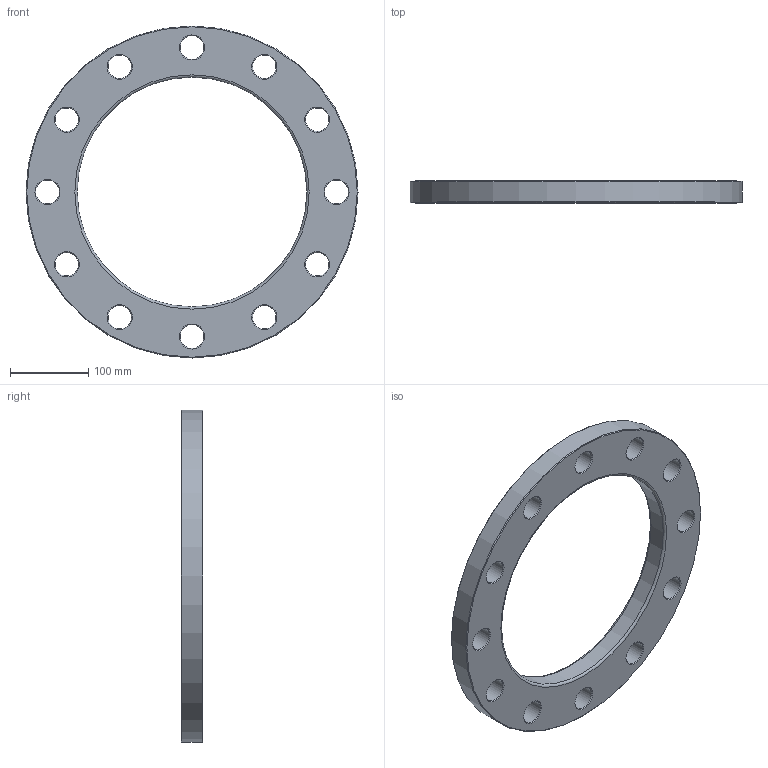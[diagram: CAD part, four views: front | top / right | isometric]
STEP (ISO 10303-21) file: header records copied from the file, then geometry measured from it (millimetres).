
FILE_DESCRIPTION(/* description */ ('Unknown'),/* implementation_level */ '2;1');
FILE_NAME(/* name */ 'FZ280H',/* time_stamp */ '2021-03-15T12:52:12+01:00',/* author */ ('Unknown'),/* organization */ ('Unknown'),/* preprocessor_version */ 'ST-DEVELOPER v16.7',/* originating_system */ 'Solid Edge',/* authorisation */ 'Unknown');
FILE_SCHEMA (('AUTOMOTIVE_DESIGN {1 0 10303 214 3 1 1}'));
Length unit declared in the file: millimetre
Products named in the file (1): FZ280H
Bounding box: 425 x 28 x 425 mm (x, y, z)
Volume: 1827746.6 mm3; surface area: 220669.7 mm2
Topology: 1 solids, 1 shells, 44 faces, 134 edges, 92 vertices
Faces by surface type: cone 26, cylinder 14, plane 2, torus 2
Full cylindrical faces by diameter (mm): 30 x12, 294 x1, 425 x1
Entity records: 1086 total; most frequent: DIRECTION 202, CARTESIAN_POINT 157, ORIENTED_EDGE 112, EDGE_LOOP 112, FACE_BOUND 112, AXIS2_PLACEMENT_3D 101, EDGE_CURVE 56, VERTEX_POINT 56
